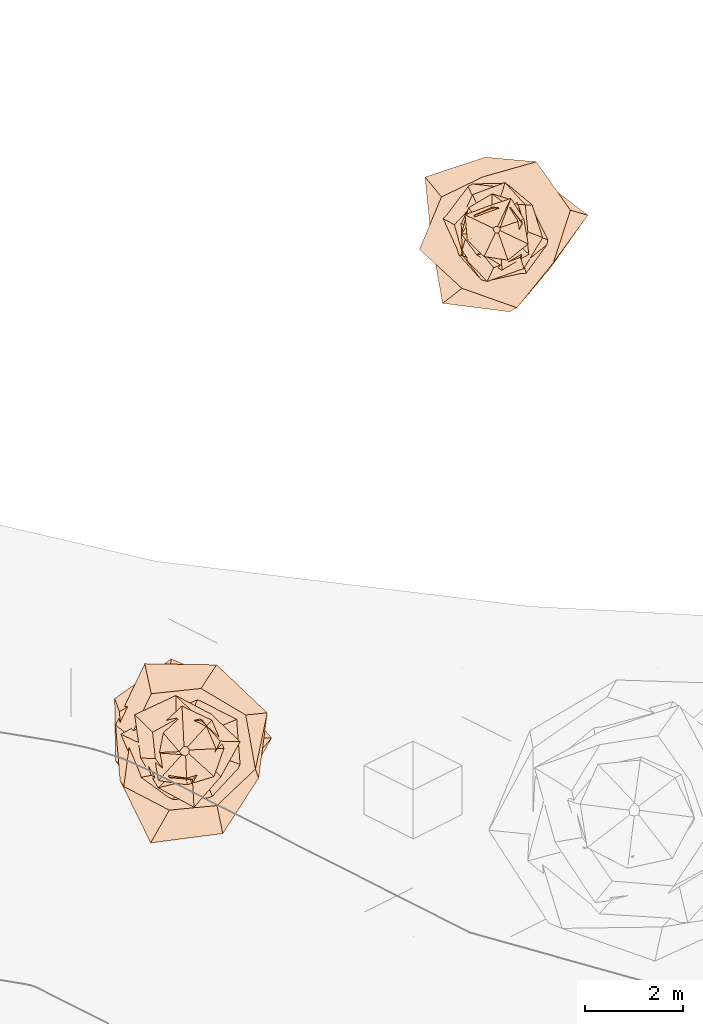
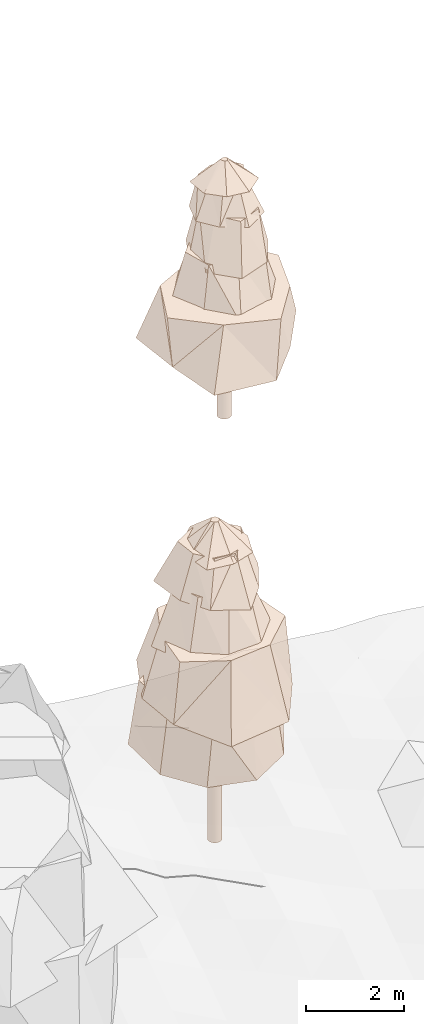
# Not in any storey, part 56 of 88: 2 geographic elements.
"""IFC4 model written with IfcOpenShell, lengths in metres."""

from ifc_helpers import new_model, si_unit, frame, origin_with_axes, place, context, subcontext, project, spatial, circle, extrude, faceted_brep, element, save


model = new_model("IFC4")

# Units and contexts
model_context = context("Model", 3, precision=1e-05, world=origin_with_axes())
body_context = subcontext(model_context, "Body", "Model", "MODEL_VIEW")
ifc_project = project(units=[si_unit("LENGTHUNIT", "METRE"), si_unit("AREAUNIT", "SQUARE_METRE"), si_unit("VOLUMEUNIT", "CUBIC_METRE"), si_unit("PLANEANGLEUNIT", "RADIAN")], contexts=[model_context])

# Sites
site_1_placement = place(None, origin_with_axes())
site_1 = spatial("IfcSite", under=ifc_project, at=site_1_placement, Name="CH907857693633", CompositionType="ELEMENT")
site_2_placement = place(None, origin_with_axes())
site_2 = spatial("IfcSite", under=site_1, at=site_2_placement, Name="Vegetation", CompositionType="ELEMENT")

# Geographic element
geographic_element_1_placement = place(None, frame((147.709000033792, 113.466003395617, 8.32476806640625), z_axis=(0.0, 0.0, 1.0), x_axis=(1.0, 0.0, 0.0)))
element("IfcGeographicElement", 1, at=geographic_element_1_placement, inside=site_2, Name="Tree_einzelbaum", ObjectType="VEGETATION", PredefinedType="USERDEFINED", context=body_context, shape_type="Brep", body=[
    extrude(circle(Radius=0.15), origin_with_axes(), (0.0, 0.0, 1.0), 1.78592993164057),
    faceted_brep([(1.09612693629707, -0.801327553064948, 1.78592993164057), (0.261901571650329, -1.68571015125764, 1.78592993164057), (-1.10564009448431, -1.5123926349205, 1.78592993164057), (-1.33764463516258, -0.207824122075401, 1.78592993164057), (-1.46438770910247, 1.07054592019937, 1.78592993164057), (-0.229489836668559, 1.47709440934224, 1.78592993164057), (0.805623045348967, 1.10200269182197, 1.78592993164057), (1.86603184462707, 0.289917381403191, 1.78592993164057), (1.50929403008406, 0.392038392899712, 3.22210084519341), (0.812035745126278, 1.38191282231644, 3.22210084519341), (-0.278976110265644, 1.07401975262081, 3.22210084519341), (-1.12808766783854, 0.662883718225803, 3.22210084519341), (-1.57778911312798, -0.409829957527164, 3.22210084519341), (-0.708885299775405, -1.20637261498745, 3.22210084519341), (0.41642039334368, -1.60316138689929, 3.22210084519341), (1.16054533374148, -0.681956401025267, 3.22210084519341), (1.86603184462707, 0.289917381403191, 1.78592993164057), (0.805623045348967, 1.10200269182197, 1.78592993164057), (0.812035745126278, 1.38191282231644, 3.22210084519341), (1.50929403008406, 0.392038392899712, 3.22210084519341), (0.805623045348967, 1.10200269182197, 1.78592993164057), (-0.229489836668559, 1.47709440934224, 1.78592993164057), (-0.278976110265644, 1.07401975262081, 3.22210084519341), (0.812035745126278, 1.38191282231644, 3.22210084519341), (-0.229489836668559, 1.47709440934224, 1.78592993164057), (-1.46438770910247, 1.07054592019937, 1.78592993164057), (-1.12808766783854, 0.662883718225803, 3.22210084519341), (-0.278976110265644, 1.07401975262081, 3.22210084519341), (-1.46438770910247, 1.07054592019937, 1.78592993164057), (-1.33764463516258, -0.207824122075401, 1.78592993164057), (-1.57778911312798, -0.409829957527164, 3.22210084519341), (-1.12808766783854, 0.662883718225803, 3.22210084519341), (-1.33764463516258, -0.207824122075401, 1.78592993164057), (-1.10564009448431, -1.5123926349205, 1.78592993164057), (-0.708885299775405, -1.20637261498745, 3.22210084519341), (-1.57778911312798, -0.409829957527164, 3.22210084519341), (-1.10564009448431, -1.5123926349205, 1.78592993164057), (0.261901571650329, -1.68571015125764, 1.78592993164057), (0.41642039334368, -1.60316138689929, 3.22210084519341), (-0.708885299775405, -1.20637261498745, 3.22210084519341), (0.261901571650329, -1.68571015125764, 1.78592993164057), (1.09612693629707, -0.801327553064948, 1.78592993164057), (1.16054533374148, -0.681956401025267, 3.22210084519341), (0.41642039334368, -1.60316138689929, 3.22210084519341), (1.09612693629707, -0.801327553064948, 1.78592993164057), (1.86603184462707, 0.289917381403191, 1.78592993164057), (1.50929403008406, 0.392038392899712, 3.22210084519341), (1.16054533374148, -0.681956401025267, 3.22210084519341)], [[[0, 1, 2, 3, 4, 5, 6, 7]], [[8, 9, 10, 11, 12, 13, 14, 15]], [[16, 17, 18, 19]], [[20, 21, 22, 23]], [[24, 25, 26, 27]], [[28, 29, 30, 31]], [[32, 33, 34, 35]], [[36, 37, 38, 39]], [[40, 41, 42, 43]], [[44, 45, 46, 47]]]),
    faceted_brep([(1.12438301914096, -0.239097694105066, 3.00667520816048), (0.609855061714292, -0.939274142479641, 3.00667520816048), (-0.239983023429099, -1.12854637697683, 3.00667520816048), (-0.791821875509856, -0.514116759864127, 3.00667520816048), (-1.13793040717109, 0.241978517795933, 3.00667520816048), (-0.610545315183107, 0.940337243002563, 3.00667520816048), (0.204320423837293, 0.960839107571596, 3.00667520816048), (0.757638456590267, 0.491922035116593, 3.00667520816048), (0.607845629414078, 0.487404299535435, 4.30801397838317), (0.0950140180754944, 0.864023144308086, 4.30801397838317), (-0.437053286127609, 0.545052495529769, 4.30801397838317), (-0.863418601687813, 0.0949475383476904, 4.30801397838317), (-0.683459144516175, -0.548035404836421, 4.30801397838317), (-0.0783730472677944, -0.712696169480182, 4.30801397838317), (0.556720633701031, -0.694290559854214, 4.30801397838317), (0.655065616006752, -0.0720355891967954, 4.30801397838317), (0.757638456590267, 0.491922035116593, 3.00667520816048), (0.204320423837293, 0.960839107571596, 3.00667520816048), (0.0950140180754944, 0.864023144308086, 4.30801397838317), (0.607845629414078, 0.487404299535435, 4.30801397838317), (0.204320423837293, 0.960839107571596, 3.00667520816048), (-0.610545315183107, 0.940337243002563, 3.00667520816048), (-0.437053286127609, 0.545052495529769, 4.30801397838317), (0.0950140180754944, 0.864023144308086, 4.30801397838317), (-0.610545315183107, 0.940337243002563, 3.00667520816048), (-1.13793040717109, 0.241978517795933, 3.00667520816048), (-0.863418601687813, 0.0949475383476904, 4.30801397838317), (-0.437053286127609, 0.545052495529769, 4.30801397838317), (-1.13793040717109, 0.241978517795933, 3.00667520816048), (-0.791821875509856, -0.514116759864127, 3.00667520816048), (-0.683459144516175, -0.548035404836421, 4.30801397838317), (-0.863418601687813, 0.0949475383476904, 4.30801397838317), (-0.791821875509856, -0.514116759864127, 3.00667520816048), (-0.239983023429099, -1.12854637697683, 3.00667520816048), (-0.0783730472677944, -0.712696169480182, 4.30801397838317), (-0.683459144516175, -0.548035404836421, 4.30801397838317), (-0.239983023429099, -1.12854637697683, 3.00667520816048), (0.609855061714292, -0.939274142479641, 3.00667520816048), (0.556720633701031, -0.694290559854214, 4.30801397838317), (-0.0783730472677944, -0.712696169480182, 4.30801397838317), (0.609855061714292, -0.939274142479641, 3.00667520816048), (1.12438301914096, -0.239097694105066, 3.00667520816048), (0.655065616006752, -0.0720355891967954, 4.30801397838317), (0.556720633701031, -0.694290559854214, 4.30801397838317), (1.12438301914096, -0.239097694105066, 3.00667520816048), (0.757638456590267, 0.491922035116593, 3.00667520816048), (0.607845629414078, 0.487404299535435, 4.30801397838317), (0.655065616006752, -0.0720355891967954, 4.30801397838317)], [[[0, 1, 2, 3, 4, 5, 6, 7]], [[8, 9, 10, 11, 12, 13, 14, 15]], [[16, 17, 18, 19]], [[20, 21, 22, 23]], [[24, 25, 26, 27]], [[28, 29, 30, 31]], [[32, 33, 34, 35]], [[36, 37, 38, 39]], [[40, 41, 42, 43]], [[44, 45, 46, 47]]]),
    faceted_brep([(0.941817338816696, -0.169949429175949, 4.11281316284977), (0.55647655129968, -0.801525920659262, 4.11281316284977), (-0.192375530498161, -1.06609719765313, 4.11281316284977), (-0.73009714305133, -0.50688559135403, 4.11281316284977), (-0.755345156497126, 0.136300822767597, 4.11281316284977), (-0.493009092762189, 0.71011000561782, 4.11281316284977), (0.172700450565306, 0.957062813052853, 4.11281316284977), (0.725324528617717, 0.503572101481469, 4.11281316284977), (0.586273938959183, 0.500738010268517, 5.32482013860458), (0.0427979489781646, 0.543887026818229, 5.32482013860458), (-0.358626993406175, 0.419887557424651, 5.32482013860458), (-0.56945266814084, 0.0448096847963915, 5.32482013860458), (-0.410108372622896, -0.350274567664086, 5.32482013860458), (-0.0617898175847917, -0.785240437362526, 5.32482013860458), (0.485881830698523, -0.568880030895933, 5.32482013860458), (0.639850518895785, -0.0503492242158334, 5.32482013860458), (0.725324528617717, 0.503572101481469, 4.11281316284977), (0.172700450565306, 0.957062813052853, 4.11281316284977), (0.0427979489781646, 0.543887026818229, 5.32482013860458), (0.586273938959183, 0.500738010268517, 5.32482013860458), (0.172700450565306, 0.957062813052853, 4.11281316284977), (-0.493009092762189, 0.71011000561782, 4.11281316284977), (-0.358626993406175, 0.419887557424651, 5.32482013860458), (0.0427979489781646, 0.543887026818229, 5.32482013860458), (-0.493009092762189, 0.71011000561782, 4.11281316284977), (-0.755345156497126, 0.136300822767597, 4.11281316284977), (-0.56945266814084, 0.0448096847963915, 5.32482013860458), (-0.358626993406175, 0.419887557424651, 5.32482013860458), (-0.755345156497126, 0.136300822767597, 4.11281316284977), (-0.73009714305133, -0.50688559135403, 4.11281316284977), (-0.410108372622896, -0.350274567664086, 5.32482013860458), (-0.56945266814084, 0.0448096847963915, 5.32482013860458), (-0.73009714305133, -0.50688559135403, 4.11281316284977), (-0.192375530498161, -1.06609719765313, 4.11281316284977), (-0.0617898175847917, -0.785240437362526, 5.32482013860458), (-0.410108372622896, -0.350274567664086, 5.32482013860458), (-0.192375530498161, -1.06609719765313, 4.11281316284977), (0.55647655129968, -0.801525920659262, 4.11281316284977), (0.485881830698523, -0.568880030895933, 5.32482013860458), (-0.0617898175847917, -0.785240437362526, 5.32482013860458), (0.55647655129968, -0.801525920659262, 4.11281316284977), (0.941817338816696, -0.169949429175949, 4.11281316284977), (0.639850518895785, -0.0503492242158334, 5.32482013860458), (0.485881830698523, -0.568880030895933, 5.32482013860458), (0.941817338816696, -0.169949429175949, 4.11281316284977), (0.725324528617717, 0.503572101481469, 4.11281316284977), (0.586273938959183, 0.500738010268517, 5.32482013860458), (0.639850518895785, -0.0503492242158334, 5.32482013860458)], [[[0, 1, 2, 3, 4, 5, 6, 7]], [[8, 9, 10, 11, 12, 13, 14, 15]], [[16, 17, 18, 19]], [[20, 21, 22, 23]], [[24, 25, 26, 27]], [[28, 29, 30, 31]], [[32, 33, 34, 35]], [[36, 37, 38, 39]], [[40, 41, 42, 43]], [[44, 45, 46, 47]]]),
    faceted_brep([(0.65904295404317, -0.508983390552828, 5.14301909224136), (0.107189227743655, -0.834334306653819, 5.14301909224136), (-0.404046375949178, -0.52316818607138, 5.14301909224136), (-0.720645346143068, -0.0925832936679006, 5.14301909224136), (-0.573389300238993, 0.442832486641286, 5.14301909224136), (-0.0932673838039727, 0.725970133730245, 5.14301909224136), (0.435078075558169, 0.563348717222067, 5.14301909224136), (0.585253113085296, 0.0751890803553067, 5.14301909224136), (0.52069560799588, 0.120694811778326, 5.99810648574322), (0.279717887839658, 0.448520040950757, 5.99810648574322), (-0.0996659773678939, 0.429974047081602, 5.99810648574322), (-0.452623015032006, 0.28227669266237, 5.99810648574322), (-0.403210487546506, -0.0934623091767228, 5.99810648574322), (-0.233503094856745, -0.374415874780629, 5.99810648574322), (0.0965177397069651, -0.416392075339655, 5.99810648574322), (0.357104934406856, -0.222707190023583, 5.99810648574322), (0.585253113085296, 0.0751890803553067, 5.14301909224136), (0.435078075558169, 0.563348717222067, 5.14301909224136), (0.279717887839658, 0.448520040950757, 5.99810648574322), (0.52069560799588, 0.120694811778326, 5.99810648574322), (0.435078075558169, 0.563348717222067, 5.14301909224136), (-0.0932673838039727, 0.725970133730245, 5.14301909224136), (-0.0996659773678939, 0.429974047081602, 5.99810648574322), (0.279717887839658, 0.448520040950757, 5.99810648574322), (-0.0932673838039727, 0.725970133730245, 5.14301909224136), (-0.573389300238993, 0.442832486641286, 5.14301909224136), (-0.452623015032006, 0.28227669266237, 5.99810648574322), (-0.0996659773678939, 0.429974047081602, 5.99810648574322), (-0.573389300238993, 0.442832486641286, 5.14301909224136), (-0.720645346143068, -0.0925832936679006, 5.14301909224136), (-0.403210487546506, -0.0934623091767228, 5.99810648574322), (-0.452623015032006, 0.28227669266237, 5.99810648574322), (-0.720645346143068, -0.0925832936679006, 5.14301909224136), (-0.404046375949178, -0.52316818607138, 5.14301909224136), (-0.233503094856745, -0.374415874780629, 5.99810648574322), (-0.403210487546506, -0.0934623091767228, 5.99810648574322), (-0.404046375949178, -0.52316818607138, 5.14301909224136), (0.107189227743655, -0.834334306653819, 5.14301909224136), (0.0965177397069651, -0.416392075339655, 5.99810648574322), (-0.233503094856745, -0.374415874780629, 5.99810648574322), (0.107189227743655, -0.834334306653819, 5.14301909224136), (0.65904295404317, -0.508983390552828, 5.14301909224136), (0.357104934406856, -0.222707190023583, 5.99810648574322), (0.0965177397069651, -0.416392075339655, 5.99810648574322), (0.65904295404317, -0.508983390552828, 5.14301909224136), (0.585253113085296, 0.0751890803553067, 5.14301909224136), (0.52069560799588, 0.120694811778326, 5.99810648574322), (0.357104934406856, -0.222707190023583, 5.99810648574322)], [[[0, 1, 2, 3, 4, 5, 6, 7]], [[8, 9, 10, 11, 12, 13, 14, 15]], [[16, 17, 18, 19]], [[20, 21, 22, 23]], [[24, 25, 26, 27]], [[28, 29, 30, 31]], [[32, 33, 34, 35]], [[36, 37, 38, 39]], [[40, 41, 42, 43]], [[44, 45, 46, 47]]]),
    faceted_brep([(0.645837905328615, -0.298296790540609, 5.86984337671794), (0.231698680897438, -0.629435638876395, 5.86984337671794), (-0.256795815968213, -0.555984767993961, 5.86984337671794), (-0.598970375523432, -0.220484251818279, 5.86984337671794), (-0.645429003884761, 0.2981079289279, 5.86984337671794), (-0.174597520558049, 0.474313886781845, 5.86984337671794), (0.293115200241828, 0.634619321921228, 5.86984337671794), (0.559524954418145, 0.205964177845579, 5.86984337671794), (0.074111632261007, 0.0360482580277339, 6.38497872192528), (0.0207315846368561, 0.0599996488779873, 6.38497872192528), (-0.0266110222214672, 0.0547096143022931, 6.38497872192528), (-0.0763715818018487, 0.0263885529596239, 6.38497872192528), (-0.0565238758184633, -0.0274934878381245, 6.38497872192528), (-0.0246493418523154, -0.071338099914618, 6.38497872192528), (0.0382596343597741, -0.0786580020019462, 6.38497872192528), (0.0650474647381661, -0.0224757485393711, 6.38497872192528), (0.559524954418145, 0.205964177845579, 5.86984337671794), (0.293115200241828, 0.634619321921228, 5.86984337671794), (0.0207315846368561, 0.0599996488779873, 6.38497872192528), (0.074111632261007, 0.0360482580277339, 6.38497872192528), (0.293115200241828, 0.634619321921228, 5.86984337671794), (-0.174597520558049, 0.474313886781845, 5.86984337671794), (-0.0266110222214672, 0.0547096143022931, 6.38497872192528), (0.0207315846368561, 0.0599996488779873, 6.38497872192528), (-0.174597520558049, 0.474313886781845, 5.86984337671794), (-0.645429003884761, 0.2981079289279, 5.86984337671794), (-0.0763715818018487, 0.0263885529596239, 6.38497872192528), (-0.0266110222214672, 0.0547096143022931, 6.38497872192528), (-0.645429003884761, 0.2981079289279, 5.86984337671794), (-0.598970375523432, -0.220484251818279, 5.86984337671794), (-0.0565238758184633, -0.0274934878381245, 6.38497872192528), (-0.0763715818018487, 0.0263885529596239, 6.38497872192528), (-0.598970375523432, -0.220484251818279, 5.86984337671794), (-0.256795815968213, -0.555984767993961, 5.86984337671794), (-0.0246493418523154, -0.071338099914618, 6.38497872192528), (-0.0565238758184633, -0.0274934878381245, 6.38497872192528), (-0.256795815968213, -0.555984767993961, 5.86984337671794), (0.231698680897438, -0.629435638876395, 5.86984337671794), (0.0382596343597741, -0.0786580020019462, 6.38497872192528), (-0.0246493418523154, -0.071338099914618, 6.38497872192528), (0.231698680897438, -0.629435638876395, 5.86984337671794), (0.645837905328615, -0.298296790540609, 5.86984337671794), (0.0650474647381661, -0.0224757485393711, 6.38497872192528), (0.0382596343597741, -0.0786580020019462, 6.38497872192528), (0.645837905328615, -0.298296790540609, 5.86984337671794), (0.559524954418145, 0.205964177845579, 5.86984337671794), (0.074111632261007, 0.0360482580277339, 6.38497872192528), (0.0650474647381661, -0.0224757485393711, 6.38497872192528)], [[[0, 1, 2, 3, 4, 5, 6, 7]], [[8, 9, 10, 11, 12, 13, 14, 15]], [[16, 17, 18, 19]], [[20, 21, 22, 23]], [[24, 25, 26, 27]], [[28, 29, 30, 31]], [[32, 33, 34, 35]], [[36, 37, 38, 39]], [[40, 41, 42, 43]], [[44, 45, 46, 47]]]),
])

# Site
site_3_placement = place(None, origin_with_axes())
site_3 = spatial("IfcSite", under=site_1, at=site_3_placement, Name="Simulated_forest", CompositionType="ELEMENT")

# Geographic element
geographic_element_2_placement = place(None, frame((141.330647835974, 102.801709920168, 6.44415283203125), z_axis=(0.0, 0.0, 1.0), x_axis=(1.0, 0.0, 0.0)))
element("IfcGeographicElement", 2, at=geographic_element_2_placement, inside=site_3, Name="Tree_SIMULATED_WOODED_AREA", ObjectType="VEGETATION", PredefinedType="USERDEFINED", context=body_context, shape_type="Brep", body=[
    extrude(circle(Radius=0.15), origin_with_axes(), (0.0, 0.0, 1.0), 2.21570541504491),
    faceted_brep([(1.14189022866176, -0.849594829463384, 2.21570541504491), (0.20078972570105, -1.36803295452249, 2.21570541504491), (-0.810048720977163, -1.08873864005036, 2.21570541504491), (-1.41336889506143, -0.207443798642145, 2.21570541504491), (-1.43424424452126, 1.06711351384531, 2.21570541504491), (-0.275611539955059, 1.87781355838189, 2.21570541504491), (0.926689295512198, 1.24550834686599, 2.21570541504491), (1.77759779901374, 0.260902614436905, 2.21570541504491), (1.0662556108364, 0.267417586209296, 3.93666091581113), (0.836832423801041, 1.39710547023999, 3.93666091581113), (-0.349676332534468, 1.39424020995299, 3.93666091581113), (-1.3342609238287, 0.799190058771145, 3.93666091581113), (-1.27910652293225, -0.320800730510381, 3.93666091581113), (-0.751101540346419, -1.25397635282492, 3.93666091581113), (0.26806811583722, -1.06884942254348, 3.93666091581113), (1.01869191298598, -0.61017184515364, 3.93666091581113), (1.77759779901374, 0.260902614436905, 2.21570541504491), (0.926689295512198, 1.24550834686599, 2.21570541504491), (0.836832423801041, 1.39710547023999, 3.93666091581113), (1.0662556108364, 0.267417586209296, 3.93666091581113), (0.926689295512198, 1.24550834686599, 2.21570541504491), (-0.275611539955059, 1.87781355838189, 2.21570541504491), (-0.349676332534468, 1.39424020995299, 3.93666091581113), (0.836832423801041, 1.39710547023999, 3.93666091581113), (-0.275611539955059, 1.87781355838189, 2.21570541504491), (-1.43424424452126, 1.06711351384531, 2.21570541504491), (-1.3342609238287, 0.799190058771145, 3.93666091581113), (-0.349676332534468, 1.39424020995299, 3.93666091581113), (-1.43424424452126, 1.06711351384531, 2.21570541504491), (-1.41336889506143, -0.207443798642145, 2.21570541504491), (-1.27910652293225, -0.320800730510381, 3.93666091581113), (-1.3342609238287, 0.799190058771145, 3.93666091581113), (-1.41336889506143, -0.207443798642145, 2.21570541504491), (-0.810048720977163, -1.08873864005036, 2.21570541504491), (-0.751101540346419, -1.25397635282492, 3.93666091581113), (-1.27910652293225, -0.320800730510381, 3.93666091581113), (-0.810048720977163, -1.08873864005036, 2.21570541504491), (0.20078972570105, -1.36803295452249, 2.21570541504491), (0.26806811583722, -1.06884942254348, 3.93666091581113), (-0.751101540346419, -1.25397635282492, 3.93666091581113), (0.20078972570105, -1.36803295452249, 2.21570541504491), (1.14189022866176, -0.849594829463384, 2.21570541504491), (1.01869191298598, -0.61017184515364, 3.93666091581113), (0.26806811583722, -1.06884942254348, 3.93666091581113), (1.14189022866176, -0.849594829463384, 2.21570541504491), (1.77759779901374, 0.260902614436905, 2.21570541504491), (1.0662556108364, 0.267417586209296, 3.93666091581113), (1.01869191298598, -0.61017184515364, 3.93666091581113)], [[[0, 1, 2, 3, 4, 5, 6, 7]], [[8, 9, 10, 11, 12, 13, 14, 15]], [[16, 17, 18, 19]], [[20, 21, 22, 23]], [[24, 25, 26, 27]], [[28, 29, 30, 31]], [[32, 33, 34, 35]], [[36, 37, 38, 39]], [[40, 41, 42, 43]], [[44, 45, 46, 47]]]),
    faceted_brep([(1.51043608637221, -0.558943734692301, 3.6785175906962), (0.778300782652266, -1.69270928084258, 3.6785175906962), (-0.697077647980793, -1.88371596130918, 3.6785175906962), (-1.32291132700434, -0.608269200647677, 3.6785175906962), (-1.41537593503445, 0.523766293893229, 3.6785175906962), (-0.818547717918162, 1.78024145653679, 3.6785175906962), (0.650038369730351, 1.75660151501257, 3.6785175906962), (1.68699328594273, 0.775672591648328, 3.6785175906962), (1.2465640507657, 0.732008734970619, 5.29074778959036), (0.33130569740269, 1.27393968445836, 5.29074778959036), (-0.685115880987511, 1.16670852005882, 5.29074778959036), (-1.10767334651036, 0.28806582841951, 5.29074778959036), (-1.24722054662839, -0.732394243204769, 5.29074778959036), (-0.315785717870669, -1.2142621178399, 5.29074778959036), (0.658343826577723, -1.12111742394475, 5.29074778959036), (1.44518791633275, -0.375841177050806, 5.29074778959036), (1.68699328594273, 0.775672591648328, 3.6785175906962), (0.650038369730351, 1.75660151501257, 3.6785175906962), (0.33130569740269, 1.27393968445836, 5.29074778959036), (1.2465640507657, 0.732008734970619, 5.29074778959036), (0.650038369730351, 1.75660151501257, 3.6785175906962), (-0.818547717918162, 1.78024145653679, 3.6785175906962), (-0.685115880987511, 1.16670852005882, 5.29074778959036), (0.33130569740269, 1.27393968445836, 5.29074778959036), (-0.818547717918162, 1.78024145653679, 3.6785175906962), (-1.41537593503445, 0.523766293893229, 3.6785175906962), (-1.10767334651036, 0.28806582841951, 5.29074778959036), (-0.685115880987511, 1.16670852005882, 5.29074778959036), (-1.41537593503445, 0.523766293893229, 3.6785175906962), (-1.32291132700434, -0.608269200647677, 3.6785175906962), (-1.24722054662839, -0.732394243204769, 5.29074778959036), (-1.10767334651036, 0.28806582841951, 5.29074778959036), (-1.32291132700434, -0.608269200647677, 3.6785175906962), (-0.697077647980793, -1.88371596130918, 3.6785175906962), (-0.315785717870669, -1.2142621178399, 5.29074778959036), (-1.24722054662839, -0.732394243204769, 5.29074778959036), (-0.697077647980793, -1.88371596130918, 3.6785175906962), (0.778300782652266, -1.69270928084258, 3.6785175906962), (0.658343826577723, -1.12111742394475, 5.29074778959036), (-0.315785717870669, -1.2142621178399, 5.29074778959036), (0.778300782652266, -1.69270928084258, 3.6785175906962), (1.51043608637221, -0.558943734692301, 3.6785175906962), (1.44518791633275, -0.375841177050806, 5.29074778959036), (0.658343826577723, -1.12111742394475, 5.29074778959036), (1.51043608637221, -0.558943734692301, 3.6785175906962), (1.68699328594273, 0.775672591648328, 3.6785175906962), (1.2465640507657, 0.732008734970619, 5.29074778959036), (1.44518791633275, -0.375841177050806, 5.29074778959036)], [[[0, 1, 2, 3, 4, 5, 6, 7]], [[8, 9, 10, 11, 12, 13, 14, 15]], [[16, 17, 18, 19]], [[20, 21, 22, 23]], [[24, 25, 26, 27]], [[28, 29, 30, 31]], [[32, 33, 34, 35]], [[36, 37, 38, 39]], [[40, 41, 42, 43]], [[44, 45, 46, 47]]]),
    faceted_brep([(1.22109631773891, -0.315272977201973, 5.04891325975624), (0.588301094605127, -0.997818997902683, 5.04891325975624), (-0.267237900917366, -1.03504975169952, 5.04891325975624), (-0.932932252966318, -0.550044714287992, 5.04891325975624), (-1.30526189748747, 0.33700355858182, 5.04891325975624), (-0.471203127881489, 0.799208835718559, 5.04891325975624), (0.286741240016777, 1.11058891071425, 5.04891325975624), (1.14549812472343, 0.675370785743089, 5.04891325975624), (0.628404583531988, 0.460809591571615, 6.5757759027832), (0.103118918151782, 0.670178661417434, 6.5757759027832), (-0.443380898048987, 0.604637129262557, 6.5757759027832), (-0.876526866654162, 0.134869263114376, 6.5757759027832), (-0.68797736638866, -0.504494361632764, 6.5757759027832), (-0.12145258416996, -0.789330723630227, 6.5757759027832), (0.427910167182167, -0.583539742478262, 6.5757759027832), (0.655206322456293, -0.100815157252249, 6.5757759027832), (1.14549812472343, 0.675370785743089, 5.04891325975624), (0.286741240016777, 1.11058891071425, 5.04891325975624), (0.103118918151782, 0.670178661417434, 6.5757759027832), (0.628404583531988, 0.460809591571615, 6.5757759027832), (0.286741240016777, 1.11058891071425, 5.04891325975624), (-0.471203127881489, 0.799208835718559, 5.04891325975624), (-0.443380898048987, 0.604637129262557, 6.5757759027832), (0.103118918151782, 0.670178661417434, 6.5757759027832), (-0.471203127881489, 0.799208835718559, 5.04891325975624), (-1.30526189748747, 0.33700355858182, 5.04891325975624), (-0.876526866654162, 0.134869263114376, 6.5757759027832), (-0.443380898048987, 0.604637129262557, 6.5757759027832), (-1.30526189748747, 0.33700355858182, 5.04891325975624), (-0.932932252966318, -0.550044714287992, 5.04891325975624), (-0.68797736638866, -0.504494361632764, 6.5757759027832), (-0.876526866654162, 0.134869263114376, 6.5757759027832), (-0.932932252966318, -0.550044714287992, 5.04891325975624), (-0.267237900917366, -1.03504975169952, 5.04891325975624), (-0.12145258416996, -0.789330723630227, 6.5757759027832), (-0.68797736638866, -0.504494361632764, 6.5757759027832), (-0.267237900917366, -1.03504975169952, 5.04891325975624), (0.588301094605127, -0.997818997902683, 5.04891325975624), (0.427910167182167, -0.583539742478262, 6.5757759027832), (-0.12145258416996, -0.789330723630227, 6.5757759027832), (0.588301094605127, -0.997818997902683, 5.04891325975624), (1.22109631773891, -0.315272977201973, 5.04891325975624), (0.655206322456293, -0.100815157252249, 6.5757759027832), (0.427910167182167, -0.583539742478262, 6.5757759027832), (1.22109631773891, -0.315272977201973, 5.04891325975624), (1.14549812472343, 0.675370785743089, 5.04891325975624), (0.628404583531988, 0.460809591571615, 6.5757759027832), (0.655206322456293, -0.100815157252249, 6.5757759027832)], [[[0, 1, 2, 3, 4, 5, 6, 7]], [[8, 9, 10, 11, 12, 13, 14, 15]], [[16, 17, 18, 19]], [[20, 21, 22, 23]], [[24, 25, 26, 27]], [[28, 29, 30, 31]], [[32, 33, 34, 35]], [[36, 37, 38, 39]], [[40, 41, 42, 43]], [[44, 45, 46, 47]]]),
    faceted_brep([(0.737141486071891, -0.529982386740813, 6.34674650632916), (0.188717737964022, -1.15432414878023, 6.34674650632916), (-0.544611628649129, -0.757488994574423, 6.34674650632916), (-0.902599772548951, -0.147563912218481, 6.34674650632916), (-1.02459131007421, 0.736650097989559, 6.34674650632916), (-0.184609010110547, 1.12919241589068, 6.34674650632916), (0.539141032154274, 0.749880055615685, 6.34674650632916), (1.1317184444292, 0.185021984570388, 6.34674650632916), (0.729039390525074, 0.195544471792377, 7.42355218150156), (0.352114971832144, 0.610239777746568, 7.42355218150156), (-0.173398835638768, 0.646474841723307, 7.42355218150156), (-0.658124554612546, 0.379745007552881, 7.42355218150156), (-0.602059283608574, -0.161485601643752, 7.42355218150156), (-0.311745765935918, -0.540277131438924, 7.42355218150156), (0.156885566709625, -0.58490918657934, 7.42355218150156), (0.496935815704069, -0.28673735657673, 7.42355218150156), (1.1317184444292, 0.185021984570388, 6.34674650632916), (0.539141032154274, 0.749880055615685, 6.34674650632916), (0.352114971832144, 0.610239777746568, 7.42355218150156), (0.729039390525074, 0.195544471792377, 7.42355218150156), (0.539141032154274, 0.749880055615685, 6.34674650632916), (-0.184609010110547, 1.12919241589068, 6.34674650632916), (-0.173398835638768, 0.646474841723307, 7.42355218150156), (0.352114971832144, 0.610239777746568, 7.42355218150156), (-0.184609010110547, 1.12919241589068, 6.34674650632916), (-1.02459131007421, 0.736650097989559, 6.34674650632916), (-0.658124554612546, 0.379745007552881, 7.42355218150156), (-0.173398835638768, 0.646474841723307, 7.42355218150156), (-1.02459131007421, 0.736650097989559, 6.34674650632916), (-0.902599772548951, -0.147563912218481, 6.34674650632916), (-0.602059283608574, -0.161485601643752, 7.42355218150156), (-0.658124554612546, 0.379745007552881, 7.42355218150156), (-0.902599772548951, -0.147563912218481, 6.34674650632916), (-0.544611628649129, -0.757488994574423, 6.34674650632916), (-0.311745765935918, -0.540277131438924, 7.42355218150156), (-0.602059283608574, -0.161485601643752, 7.42355218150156), (-0.544611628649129, -0.757488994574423, 6.34674650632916), (0.188717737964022, -1.15432414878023, 6.34674650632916), (0.156885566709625, -0.58490918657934, 7.42355218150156), (-0.311745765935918, -0.540277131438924, 7.42355218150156), (0.188717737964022, -1.15432414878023, 6.34674650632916), (0.737141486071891, -0.529982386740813, 6.34674650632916), (0.496935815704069, -0.28673735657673, 7.42355218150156), (0.156885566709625, -0.58490918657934, 7.42355218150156), (0.737141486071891, -0.529982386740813, 6.34674650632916), (1.1317184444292, 0.185021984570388, 6.34674650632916), (0.729039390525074, 0.195544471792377, 7.42355218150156), (0.496935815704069, -0.28673735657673, 7.42355218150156)], [[[0, 1, 2, 3, 4, 5, 6, 7]], [[8, 9, 10, 11, 12, 13, 14, 15]], [[16, 17, 18, 19]], [[20, 21, 22, 23]], [[24, 25, 26, 27]], [[28, 29, 30, 31]], [[32, 33, 34, 35]], [[36, 37, 38, 39]], [[40, 41, 42, 43]], [[44, 45, 46, 47]]]),
    faceted_brep([(0.597879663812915, -0.527970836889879, 7.2620313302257), (0.0432419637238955, -0.696392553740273, 7.2620313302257), (-0.538964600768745, -0.610329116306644, 7.2620313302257), (-0.636694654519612, -0.0395350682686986, 7.2620313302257), (-0.534842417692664, 0.472304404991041, 7.2620313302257), (-0.0567699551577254, 0.914254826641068, 7.2620313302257), (0.552641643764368, 0.625817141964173, 7.2620313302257), (0.801803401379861, 0.0497873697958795, 7.2620313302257), (0.0925165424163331, 0.0151215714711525, 7.97248229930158), (0.055810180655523, 0.0776187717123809, 7.97248229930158), (-0.0151134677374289, 0.0924669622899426, 7.97248229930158), (-0.0641683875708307, 0.0461389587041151, 7.97248229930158), (-0.112317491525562, -0.0183579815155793, 7.97248229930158), (-0.0574700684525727, -0.0799272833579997, 7.97248229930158), (0.0178878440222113, -0.109441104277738, 7.97248229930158), (0.0806137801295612, -0.057963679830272, 7.97248229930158), (0.801803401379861, 0.0497873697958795, 7.2620313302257), (0.552641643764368, 0.625817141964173, 7.2620313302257), (0.055810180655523, 0.0776187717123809, 7.97248229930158), (0.0925165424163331, 0.0151215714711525, 7.97248229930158), (0.552641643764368, 0.625817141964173, 7.2620313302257), (-0.0567699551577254, 0.914254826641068, 7.2620313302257), (-0.0151134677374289, 0.0924669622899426, 7.97248229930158), (0.055810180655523, 0.0776187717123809, 7.97248229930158), (-0.0567699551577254, 0.914254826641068, 7.2620313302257), (-0.534842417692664, 0.472304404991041, 7.2620313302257), (-0.0641683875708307, 0.0461389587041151, 7.97248229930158), (-0.0151134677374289, 0.0924669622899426, 7.97248229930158), (-0.534842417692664, 0.472304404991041, 7.2620313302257), (-0.636694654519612, -0.0395350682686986, 7.2620313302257), (-0.112317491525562, -0.0183579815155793, 7.97248229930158), (-0.0641683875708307, 0.0461389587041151, 7.97248229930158), (-0.636694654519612, -0.0395350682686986, 7.2620313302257), (-0.538964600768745, -0.610329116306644, 7.2620313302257), (-0.0574700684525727, -0.0799272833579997, 7.97248229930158), (-0.112317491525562, -0.0183579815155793, 7.97248229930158), (-0.538964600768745, -0.610329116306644, 7.2620313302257), (0.0432419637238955, -0.696392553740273, 7.2620313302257), (0.0178878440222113, -0.109441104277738, 7.97248229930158), (-0.0574700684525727, -0.0799272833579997, 7.97248229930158), (0.0432419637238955, -0.696392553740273, 7.2620313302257), (0.597879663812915, -0.527970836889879, 7.2620313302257), (0.0806137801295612, -0.057963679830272, 7.97248229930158), (0.0178878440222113, -0.109441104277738, 7.97248229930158), (0.597879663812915, -0.527970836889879, 7.2620313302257), (0.801803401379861, 0.0497873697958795, 7.2620313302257), (0.0925165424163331, 0.0151215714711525, 7.97248229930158), (0.0806137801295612, -0.057963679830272, 7.97248229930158)], [[[0, 1, 2, 3, 4, 5, 6, 7]], [[8, 9, 10, 11, 12, 13, 14, 15]], [[16, 17, 18, 19]], [[20, 21, 22, 23]], [[24, 25, 26, 27]], [[28, 29, 30, 31]], [[32, 33, 34, 35]], [[36, 37, 38, 39]], [[40, 41, 42, 43]], [[44, 45, 46, 47]]]),
])

save(model, "model.ifc")
